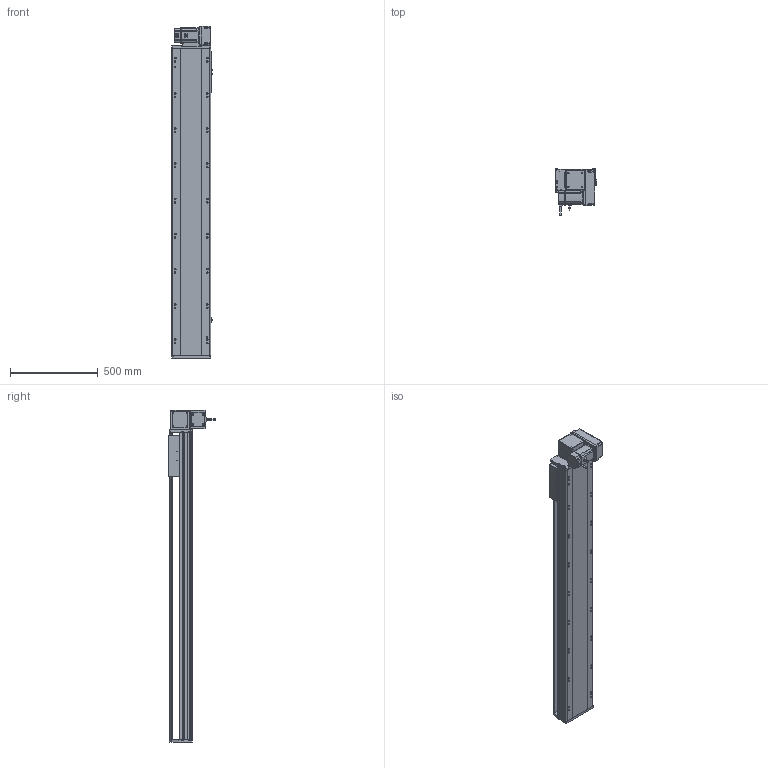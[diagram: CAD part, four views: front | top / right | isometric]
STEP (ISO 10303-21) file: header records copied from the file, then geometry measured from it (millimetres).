
FILE_DESCRIPTION (( 'STEP AP214' ), '1' );
FILE_NAME ('RTB22S-XX-1400-RM-M75-C4.STEP', '2025-12-12T07:49:49', ( '' ), ( '' ), 'SwSTEP 2.0', 'SolidWorks 2018', '' );
FILE_SCHEMA (( 'AUTOMOTIVE_DESIGN' ));
Length unit declared in the file: millimetre
Products named in the file (14): OMRON EE-SX672 传感器^RTB22S-XX-XX-RM-M75-C4; RTB22S-L-004賑釱^RTB22S-XX-XX-RM-M75-C4; RTB22S-GY-005P^RTB22S-RM-々湍釱蚾饜_RTB22S-XX-XX-RM-M75-C4; RTB22S-GY-018P^RTB22S-RM-々湍釱蚾饜_RTB22S-XX-XX-RM-M75-C4; RTB22S-GY-017P^RTB22S-RM-々湍釱蚾饜_RTB22S-XX-XX-RM-M75-C4; RTH22-GY-013外置感应片^RTB22S-XX-XX-RM-M75-C4; RTB22S-GY-008-M75--萇儂啣^RTB22S-RM-々湍釱蚾饜_RTB22S-XX-XX-RM-M75-C4; RTB22S-L-011菁釱^RTB22S-XX-XX-RM-M75-C4; RTB22S-RM-々湍釱蚾饜^RTB22S-XX-XX-RM-M75-C4; RTB22S-GY-007奻裔^RTB22S-XX-XX-RM-M75-C4; RTB22S-GY-001耜裔^RTB22S-XX-XX-RM-M75-C4; RTB22S-XX-1400-RM-M75-C4; 750W萇儂^RTB22S-XX-XX-RM-M75-C4; RTB22S-GY-014--々湍釱^RTB22S-RM-々湍釱蚾饜_RTB22S-XX-XX-RM-M75-C4
Assembly tree (16 placements, depth 3):
  RTB22S-XX-1400-RM-M75-C4
    RTB22S-L-011菁釱^RTB22S-XX-XX-RM-M75-C4
    RTB22S-GY-001耜裔^RTB22S-XX-XX-RM-M75-C4
    750W萇儂^RTB22S-XX-XX-RM-M75-C4
    RTB22S-GY-007奻裔^RTB22S-XX-XX-RM-M75-C4
    RTB22S-L-004賑釱^RTB22S-XX-XX-RM-M75-C4
    RTH22-GY-013外置感应片^RTB22S-XX-XX-RM-M75-C4
    OMRON EE-SX672 传感器^RTB22S-XX-XX-RM-M75-C4  x3
    RTB22S-RM-々湍釱蚾饜^RTB22S-XX-XX-RM-M75-C4
      RTB22S-GY-014--々湍釱^RTB22S-RM-々湍釱蚾饜_RTB22S-XX-XX-RM-M75-C4
      RTB22S-GY-017P^RTB22S-RM-々湍釱蚾饜_RTB22S-XX-XX-RM-M75-C4  x2
      RTB22S-GY-005P^RTB22S-RM-々湍釱蚾饜_RTB22S-XX-XX-RM-M75-C4
      RTB22S-GY-008-M75--萇儂啣^RTB22S-RM-々湍釱蚾饜_RTB22S-XX-XX-RM-M75-C4
      RTB22S-GY-018P^RTB22S-RM-々湍釱蚾饜_RTB22S-XX-XX-RM-M75-C4
Bounding box: 238.5 x 264.7 x 1887.5 mm (x, y, z)
Volume: 25953039.1 mm3; surface area: 2681129.8 mm2
Topology: 15 solids, 15 shells, 2001 faces, 5436 edges, 3482 vertices
Faces by surface type: plane 917, cylinder 634, bspline 296, cone 142, sphere 8, torus 4
Entity records: 53426 total; most frequent: CARTESIAN_POINT 15320, ORIENTED_EDGE 7652, DIRECTION 7380, EDGE_CURVE 3826, AXIS2_PLACEMENT_3D 2610, VERTEX_POINT 2486, VECTOR 2160, LINE 2160
